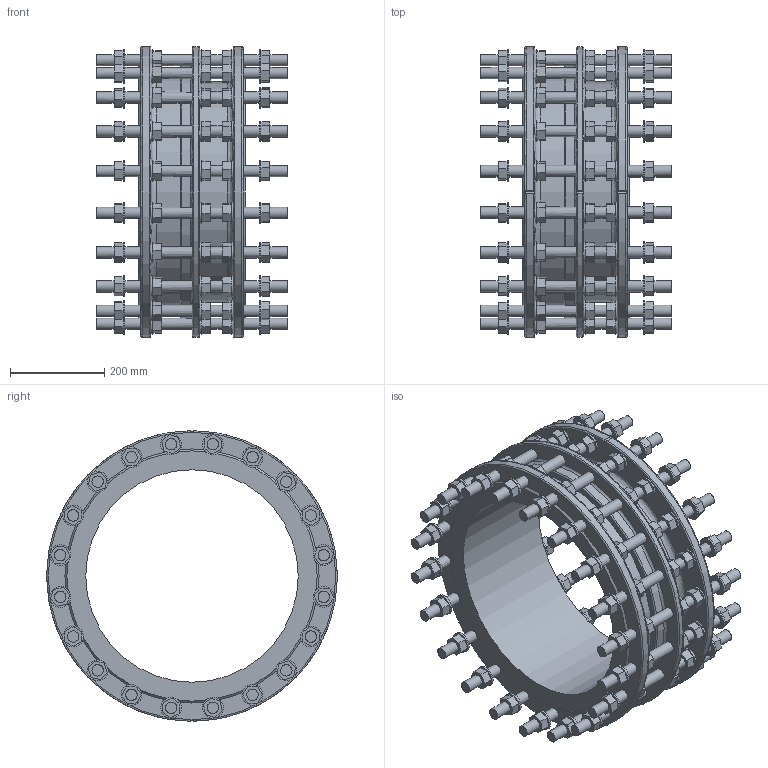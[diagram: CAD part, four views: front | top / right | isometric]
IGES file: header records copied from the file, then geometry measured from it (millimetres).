
Start section: SolidWorks IGES file using analytic representation for surfaces
Global section: file name: \\avksan2\techshare\PBM outline export from Enovia\O_265_911_DN450_0XXXXX01_L=225_REV01.igs; native system: SolidWorks 2022; preprocessor: SolidWorks 2022; author: pbm; date: 241212.090541; units: millimetre
Bounding box: 405 x 615 x 614.97 mm (x, y, z)
Surface area: 2063103.7 mm2 (no closed solid volume)
Topology: 0 solids, 0 shells, 1209 faces, 5556 edges, 5286 vertices
Faces by surface type: bspline 959, revolution 250
